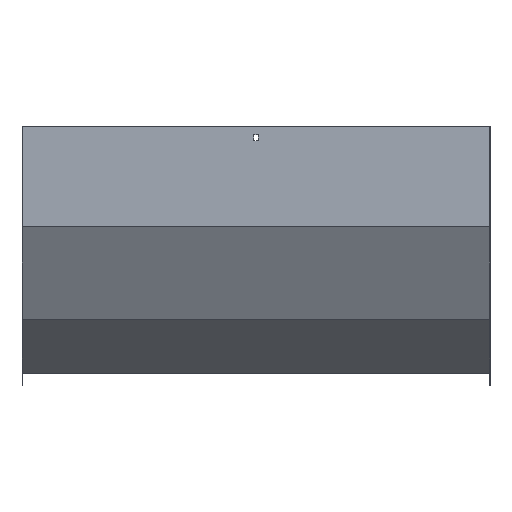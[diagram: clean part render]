
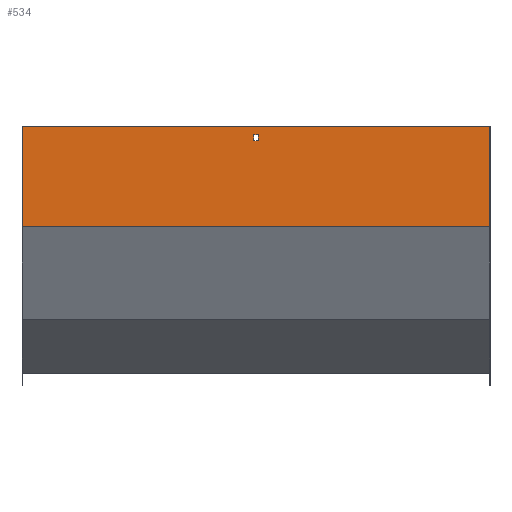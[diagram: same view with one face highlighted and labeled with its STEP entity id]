
A CAD part, front view. The second image highlights one B-rep face of the part: STEP entity #534.
In plain terms, the highlighted planar face has unit normal (0, -1, 0).
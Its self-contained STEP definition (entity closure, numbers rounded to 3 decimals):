
#5 = EDGE_CURVE ( 'NONE', #56, #824, #892, .T. ) ;
#12 = VECTOR ( 'NONE', #832, 1000. ) ;
#56 = VERTEX_POINT ( 'NONE', #503 ) ;
#63 = CARTESIAN_POINT ( 'NONE',  ( -3.25, -1.5, 0. ) ) ;
#69 = VECTOR ( 'NONE', #228, 1000. ) ;
#77 = VECTOR ( 'NONE', #620, 1000. ) ;
#135 = DIRECTION ( 'NONE',  ( 0., 1., 0. ) ) ;
#142 = CARTESIAN_POINT ( 'NONE',  ( -350., -1.5, -150.102 ) ) ;
#147 = CARTESIAN_POINT ( 'NONE',  ( 3.25, -1.5, -12. ) ) ;
#162 = VERTEX_POINT ( 'NONE', #857 ) ;
#206 = DIRECTION ( 'NONE',  ( 0., 0., 1. ) ) ;
#215 = CARTESIAN_POINT ( 'NONE',  ( 351.5, -1.5, -21. ) ) ;
#219 = ORIENTED_EDGE ( 'NONE', *, *, #755, .T. ) ;
#228 = DIRECTION ( 'NONE',  ( 0., 0., -1. ) ) ;
#252 = CARTESIAN_POINT ( 'NONE',  ( 350., -1.5, -150.102 ) ) ;
#254 = EDGE_CURVE ( 'NONE', #56, #506, #760, .T. ) ;
#262 = LINE ( 'NONE', #726, #679 ) ;
#269 = VECTOR ( 'NONE', #616, 1000. ) ;
#270 = VECTOR ( 'NONE', #425, 1000. ) ;
#287 = CARTESIAN_POINT ( 'NONE',  ( -3.25, -1.5, -12. ) ) ;
#346 = EDGE_CURVE ( 'NONE', #660, #493, #262, .T. ) ;
#385 = CARTESIAN_POINT ( 'NONE',  ( 351.5, -1.5, 0. ) ) ;
#393 = ORIENTED_EDGE ( 'NONE', *, *, #591, .F. ) ;
#425 = DIRECTION ( 'NONE',  ( 0., 0., -1. ) ) ;
#428 = AXIS2_PLACEMENT_3D ( 'NONE', #512, #135, #820 ) ;
#446 = FACE_BOUND ( 'NONE', #552, .T. ) ;
#455 = LINE ( 'NONE', #912, #69 ) ;
#456 = VERTEX_POINT ( 'NONE', #519 ) ;
#493 = VERTEX_POINT ( 'NONE', #287 ) ;
#500 = EDGE_CURVE ( 'NONE', #493, #456, #814, .T. ) ;
#502 = CARTESIAN_POINT ( 'NONE',  ( -350., -1.5, 0. ) ) ;
#503 = CARTESIAN_POINT ( 'NONE',  ( 350., -1.5, 0. ) ) ;
#506 = VERTEX_POINT ( 'NONE', #502 ) ;
#512 = CARTESIAN_POINT ( 'NONE',  ( 351.5, -1.5, 0. ) ) ;
#519 = CARTESIAN_POINT ( 'NONE',  ( -3.25, -1.5, -21. ) ) ;
#523 = EDGE_CURVE ( 'NONE', #456, #162, #810, .T. ) ;
#532 = VERTEX_POINT ( 'NONE', #142 ) ;
#534 = ADVANCED_FACE ( 'NONE', ( #654, #446 ), #659, .F. ) ;
#552 = EDGE_LOOP ( 'NONE', ( #917, #619, #865, #589 ) ) ;
#583 = CARTESIAN_POINT ( 'NONE',  ( 3.25, -1.5, 0. ) ) ;
#589 = ORIENTED_EDGE ( 'NONE', *, *, #346, .F. ) ;
#591 = EDGE_CURVE ( 'NONE', #824, #532, #699, .T. ) ;
#616 = DIRECTION ( 'NONE',  ( -1., 0., 0. ) ) ;
#619 = ORIENTED_EDGE ( 'NONE', *, *, #523, .F. ) ;
#620 = DIRECTION ( 'NONE',  ( -1., 0., 0. ) ) ;
#654 = FACE_OUTER_BOUND ( 'NONE', #875, .T. ) ;
#659 = PLANE ( 'NONE',  #428 ) ;
#660 = VERTEX_POINT ( 'NONE', #147 ) ;
#667 = CARTESIAN_POINT ( 'NONE',  ( 350., -1.5, 0. ) ) ;
#679 = VECTOR ( 'NONE', #874, 1000. ) ;
#699 = LINE ( 'NONE', #759, #77 ) ;
#726 = CARTESIAN_POINT ( 'NONE',  ( 351.5, -1.5, -12. ) ) ;
#745 = DIRECTION ( 'NONE',  ( 1., 0., 0. ) ) ;
#755 = EDGE_CURVE ( 'NONE', #506, #532, #455, .T. ) ;
#759 = CARTESIAN_POINT ( 'NONE',  ( 351.5, -1.5, -150.102 ) ) ;
#760 = LINE ( 'NONE', #385, #269 ) ;
#791 = EDGE_CURVE ( 'NONE', #162, #660, #899, .T. ) ;
#806 = ORIENTED_EDGE ( 'NONE', *, *, #5, .F. ) ;
#810 = LINE ( 'NONE', #215, #984 ) ;
#814 = LINE ( 'NONE', #63, #270 ) ;
#820 = DIRECTION ( 'NONE',  ( 0., 0., 1. ) ) ;
#824 = VERTEX_POINT ( 'NONE', #252 ) ;
#832 = DIRECTION ( 'NONE',  ( 0., 0., -1. ) ) ;
#857 = CARTESIAN_POINT ( 'NONE',  ( 3.25, -1.5, -21. ) ) ;
#865 = ORIENTED_EDGE ( 'NONE', *, *, #500, .F. ) ;
#866 = VECTOR ( 'NONE', #206, 1000. ) ;
#874 = DIRECTION ( 'NONE',  ( -1., 0., 0. ) ) ;
#875 = EDGE_LOOP ( 'NONE', ( #219, #393, #806, #942 ) ) ;
#892 = LINE ( 'NONE', #667, #12 ) ;
#899 = LINE ( 'NONE', #583, #866 ) ;
#912 = CARTESIAN_POINT ( 'NONE',  ( -350., -1.5, 0. ) ) ;
#917 = ORIENTED_EDGE ( 'NONE', *, *, #791, .F. ) ;
#942 = ORIENTED_EDGE ( 'NONE', *, *, #254, .T. ) ;
#984 = VECTOR ( 'NONE', #745, 1000. ) ;
